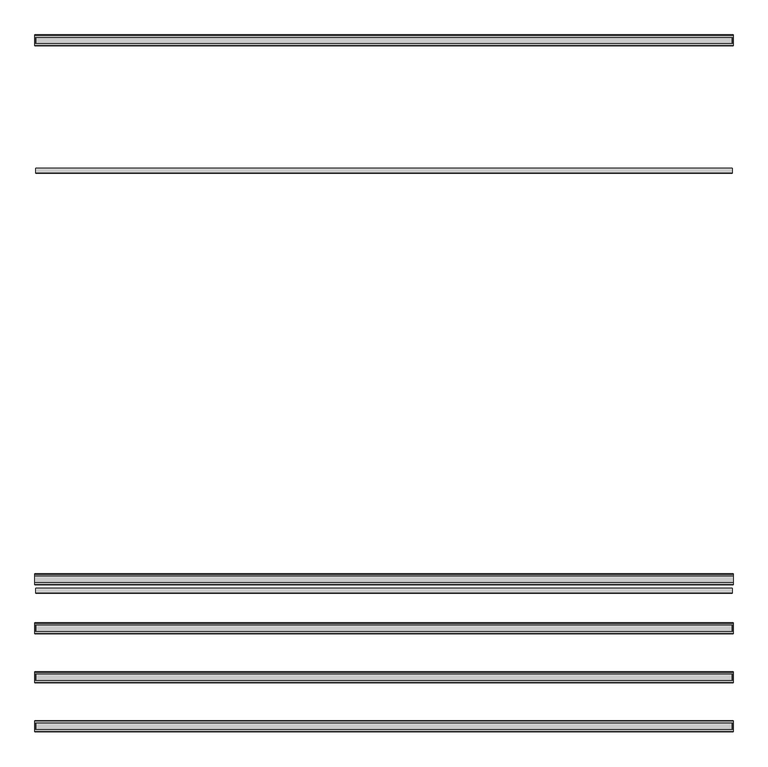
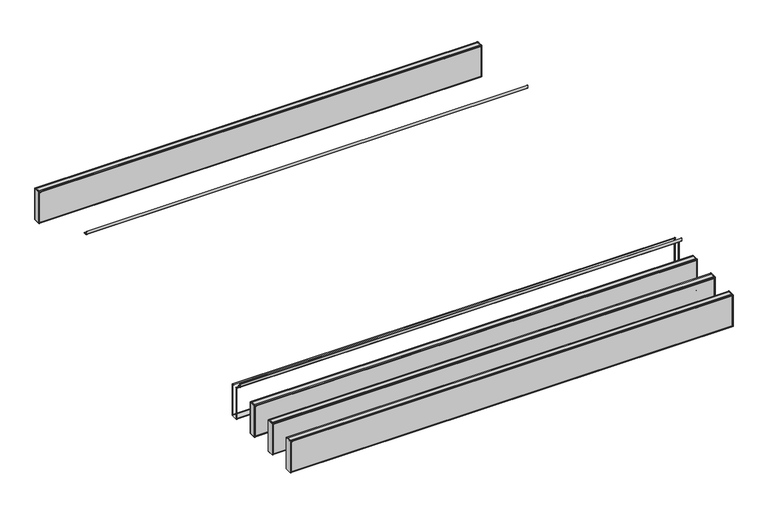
"""IFC4 building model written with IfcOpenShell, lengths in millimetres: proxy geometry, durlum_POLYLAM : durlum_POLYLAM 63 RV-L6."""

from ifc_helpers import new_model, si_unit, point, frame, frame_2d, origin, place, context, project, spatial, polyline, circle_curve, trimmed, segment, composite_curve, outline, extrude, source, transform, mapped, element, save
from ifc_brep_helpers import plane_surface, cylinder_surface, advanced_brep


def generic_models_56abbabc(model_context):
    return source(origin(), model_context, "Body", "SolidModel", [
        advanced_brep(
        [(1995.0, -1090.5, 2016.9), (1995.0, -1100.5, 2016.9), (1995.0, -1100.5, 2015.9), (1995.0, -1089.5, 2015.9), (1995.0, -1089.5, 1717.9), (1995.0, -1150.5, 1717.9), (1995.0, -1150.5, 2015.8155735), (1995.0, -1139.5, 2015.8155735), (1995.0, -1139.5, 2016.9), (1995.0, -1149.5, 2016.9), (1995.0, -1151.5, 2014.9), (1995.0, -1151.5, 1718.9), (1995.0, -1149.5, 1716.9), (1995.0, -1090.5, 1716.9), (1995.0, -1088.5, 1718.9), (1995.0, -1088.5, 2014.9), (-1995.0, -1090.5, 2016.9), (-1995.0, -1088.5, 2014.9), (-1995.0, -1088.5, 1718.9), (-1995.0, -1090.5, 1716.9), (-1995.0, -1149.5, 1716.9), (-1995.0, -1151.5, 1718.9), (-1995.0, -1151.5, 2014.9), (-1995.0, -1149.5, 2016.9), (-1995.0, -1139.5, 2016.9), (-1995.0, -1139.5, 2015.8155735), (-1995.0, -1150.5, 2015.8155735), (-1995.0, -1150.5, 1717.9), (-1995.0, -1089.5, 1717.9), (-1995.0, -1089.5, 2015.9), (-1995.0, -1100.5, 2015.9), (-1995.0, -1100.5, 2016.9), (-1986.5, -1089.5, 2008.4), (1986.5, -1089.5, 2008.4), (1986.5, -1089.5, 1725.4), (-1986.5, -1089.5, 1725.4), (1986.5, -1150.5, 2008.4), (-1986.5, -1150.5, 2008.4), (-1986.5, -1150.5, 1725.4), (1986.5, -1150.5, 1725.4), (-1986.5, -1151.5, 2008.4), (1986.5, -1151.5, 2008.4), (1986.5, -1151.5, 1725.4), (-1986.5, -1151.5, 1725.4), (1986.5, -1088.5, 2008.4), (-1986.5, -1088.5, 2008.4), (-1986.5, -1088.5, 1725.4), (1986.5, -1088.5, 1725.4)],
        [
            (0, 1),
            (1, 2),
            (2, 3),
            (3, 4),
            (4, 5),
            (5, 6),
            (6, 7),
            (7, 8),
            (8, 9),
            (9, 10, circle_curve(frame((1995.0, -1149.5, 2014.9), z_axis=(1.0, 0.0, 0.0), x_axis=(0.0, 1.0, 0.0)), 2.0)),
            (10, 11),
            (11, 12, circle_curve(frame((1995.0, -1149.5, 1718.9), z_axis=(1.0, 0.0, 0.0), x_axis=(0.0, 1.0, 0.0)), 2.0)),
            (12, 13),
            (13, 14, circle_curve(frame((1995.0, -1090.5, 1718.9), z_axis=(1.0, 0.0, 0.0), x_axis=(0.0, 1.0, 0.0)), 2.0)),
            (14, 15),
            (15, 0, circle_curve(frame((1995.0, -1090.5, 2014.9), z_axis=(1.0, 0.0, 0.0), x_axis=(0.0, 1.0, 0.0)), 2.0)),
            (16, 17, circle_curve(frame((-1995.0, -1090.5, 2014.9), z_axis=(-1.0, 0.0, 0.0), x_axis=(0.0, 1.0, 0.0)), 2.0)),
            (17, 18),
            (18, 19, circle_curve(frame((-1995.0, -1090.5, 1718.9), z_axis=(-1.0, 0.0, 0.0), x_axis=(0.0, 1.0, 0.0)), 2.0)),
            (19, 20),
            (20, 21, circle_curve(frame((-1995.0, -1149.5, 1718.9), z_axis=(-1.0, 0.0, 0.0), x_axis=(0.0, 1.0, 0.0)), 2.0)),
            (21, 22),
            (22, 23, circle_curve(frame((-1995.0, -1149.5, 2014.9), z_axis=(-1.0, 0.0, 0.0), x_axis=(0.0, 1.0, 0.0)), 2.0)),
            (23, 24),
            (24, 25),
            (25, 26),
            (26, 27),
            (27, 28),
            (28, 29),
            (29, 30),
            (30, 31),
            (31, 16),
            (0, 16),
            (31, 1),
            (30, 2),
            (29, 3),
            (28, 4),
            (32, 33),
            (33, 34),
            (34, 35),
            (35, 32),
            (27, 5),
            (26, 6),
            (36, 37),
            (37, 38),
            (38, 39),
            (39, 36),
            (25, 7),
            (24, 8),
            (23, 9),
            (10, 22),
            (21, 11),
            (40, 41),
            (41, 42),
            (42, 43),
            (43, 40),
            (12, 20),
            (19, 13),
            (14, 18),
            (17, 15),
            (44, 45),
            (45, 46),
            (46, 47),
            (47, 44),
            (44, 33),
            (32, 45),
            (36, 41),
            (40, 37),
            (35, 46),
            (43, 38),
            (34, 47),
            (42, 39),
        ],
        [
            plane_surface(frame((1995.0, -1100.5, 2016.9), z_axis=(1.0, 0.0, 0.0), x_axis=(0.0, -1.0, 0.0))),
            plane_surface(frame((-1995.0, -1100.5, 2016.9), z_axis=(-1.0, 0.0, 0.0), x_axis=(0.0, 1.0, 0.0))),
            plane_surface(frame((1995.0, -1090.5, 2016.9), z_axis=(0.0, 0.0, 1.0), x_axis=(-1.0, 0.0, 0.0))),
            plane_surface(frame((1995.0, -1100.5, 2016.9), z_axis=(0.0, -1.0, 0.0), x_axis=(-1.0, 0.0, 0.0))),
            plane_surface(frame((1995.0, -1100.5, 2015.9), z_axis=(0.0, 0.0, -1.0), x_axis=(-1.0, 0.0, 0.0))),
            plane_surface(frame((1995.0, -1089.5, 2015.9), z_axis=(0.0, -1.0, 0.0), x_axis=(-1.0, 0.0, 0.0))),
            plane_surface(frame((1995.0, -1089.5, 1717.9), z_axis=(0.0, 0.0, 1.0), x_axis=(-1.0, 0.0, 0.0))),
            plane_surface(frame((1995.0, -1150.5, 1717.9), z_axis=(0.0, 1.0, 0.0), x_axis=(-1.0, 0.0, 0.0))),
            plane_surface(frame((1995.0, -1150.5, 2015.8155735), z_axis=(0.0, 0.0, -1.0), x_axis=(-1.0, 0.0, 0.0))),
            plane_surface(frame((1995.0, -1139.5, 2015.8155735), z_axis=(0.0, 1.0, 0.0), x_axis=(-1.0, 0.0, 0.0))),
            plane_surface(frame((1995.0, -1139.5, 2016.9), z_axis=(0.0, 0.0, 1.0), x_axis=(-1.0, 0.0, 0.0))),
            plane_surface(frame((1995.0, -1151.5, 2014.9), z_axis=(0.0, -1.0, 0.0), x_axis=(-1.0, 0.0, 0.0))),
            plane_surface(frame((1995.0, -1149.5, 1716.9), z_axis=(0.0, 0.0, -1.0), x_axis=(-1.0, 0.0, 0.0))),
            plane_surface(frame((1995.0, -1088.5, 1718.9), z_axis=(0.0, 1.0, 0.0), x_axis=(-1.0, 0.0, 0.0))),
            cylinder_surface(frame((-1995.0, -1149.5, 2014.9), z_axis=(1.0, 0.0, 0.0), x_axis=(0.0, 1.0, 0.0)), 2.0),
            cylinder_surface(frame((-1995.0, -1149.5, 1718.9), z_axis=(1.0, 0.0, 0.0), x_axis=(0.0, 1.0, 0.0)), 2.0),
            cylinder_surface(frame((-1995.0, -1090.5, 1718.9), z_axis=(1.0, 0.0, 0.0), x_axis=(0.0, 1.0, 0.0)), 2.0),
            cylinder_surface(frame((-1995.0, -1090.5, 2014.9), z_axis=(1.0, 0.0, 0.0), x_axis=(0.0, 1.0, 0.0)), 2.0),
            plane_surface(frame((1986.5, -1151.5, 2008.4), z_axis=(0.0, 0.0, -1.0), x_axis=(0.0, 1.0, 0.0))),
            plane_surface(frame((-1986.5, -1151.5, 2008.4), z_axis=(1.0, 0.0, 0.0), x_axis=(0.0, 1.0, 0.0))),
            plane_surface(frame((-1986.5, -1151.5, 1725.4), z_axis=(0.0, 0.0, 1.0), x_axis=(0.0, 1.0, 0.0))),
            plane_surface(frame((1986.5, -1151.5, 1725.4), z_axis=(-1.0, 0.0, 0.0), x_axis=(0.0, 1.0, 0.0))),
        ],
        [
            (0, [[1, 2, 3, 4, 5, 6, 7, 8, 9, 10, 11, 12, 13, 14, 15, 16]]),
            (1, [[17, 18, 19, 20, 21, 22, 23, 24, 25, 26, 27, 28, 29, 30, 31, 32]]),
            (2, [[-1, 33, -32, 34]]),
            (3, [[-2, -34, -31, 35]]),
            (4, [[-3, -35, -30, 36]]),
            (5, [[-4, -36, -29, 37], [38, 39, 40, 41]]),
            (6, [[-5, -37, -28, 42]]),
            (7, [[-6, -42, -27, 43], [44, 45, 46, 47]]),
            (8, [[-7, -43, -26, 48]]),
            (9, [[-8, -48, -25, 49]]),
            (10, [[-9, -49, -24, 50]]),
            (11, [[-11, 51, -22, 52], [53, 54, 55, 56]]),
            (12, [[-13, 57, -20, 58]]),
            (13, [[-15, 59, -18, 60], [61, 62, 63, 64]]),
            (14, [[-10, -50, -23, -51]]),
            (15, [[-12, -52, -21, -57]]),
            (16, [[-14, -58, -19, -59]]),
            (17, [[-16, -60, -17, -33]]),
            (18, [[65, -38, 66, -61]]),
            (18, [[67, -53, 68, -44]]),
            (19, [[-66, -41, 69, -62]]),
            (19, [[-68, -56, 70, -45]]),
            (20, [[-69, -40, 71, -63]]),
            (20, [[-70, -55, 72, -46]]),
            (21, [[-65, -64, -71, -39]]),
            (21, [[-67, -47, -72, -54]]),
        ],
    ),
        extrude(outline(polyline([(1993.0, -1369.5), (1995.0, -1369.5), (1995.0, -1430.5), (1993.0, -1430.5), (1993.0, -1369.5)])), frame((0.0, 0.0, 1717.9), z_axis=(0.0, 0.0, 1.0), x_axis=(1.0, 0.0, 0.0)), (0.0, 0.0, 1.0), 298.0),
        extrude(outline(polyline([(-1995.0, -1369.5), (-1993.0, -1369.5), (-1993.0, -1430.5), (-1995.0, -1430.5), (-1995.0, -1369.5)])), frame((0.0, 0.0, 1717.9), z_axis=(0.0, 0.0, 1.0), x_axis=(1.0, 0.0, 0.0)), (0.0, 0.0, 1.0), 298.0),
        extrude(outline(polyline([(1986.5, -1369.5), (1986.5, -1430.5), (-1986.5, -1430.5), (-1986.5, -1369.5), (1986.5, -1369.5)])), frame((0.0, 0.0, 1717.9), z_axis=(0.0, 0.0, 1.0), x_axis=(1.0, 0.0, 0.0)), (0.0, 0.0, 1.0), 298.0),
        extrude(outline(polyline([(1986.5, -1369.5), (-1986.5, -1369.5), (-1986.5, -1368.5), (1986.5, -1368.5), (1986.5, -1369.5)])), frame((0.0, 0.0, 1725.4), z_axis=(0.0, 0.0, 1.0), x_axis=(1.0, 0.0, 0.0)), (0.0, 0.0, 1.0), 283.0),
        extrude(outline(polyline([(1986.5, -1431.5), (-1986.5, -1431.5), (-1986.5, -1430.5), (1986.5, -1430.5), (1986.5, -1431.5)])), frame((0.0, 0.0, 1725.4), z_axis=(0.0, 0.0, 1.0), x_axis=(1.0, 0.0, 0.0)), (0.0, 0.0, 1.0), 283.0),
        advanced_brep(
        [(1995.0, -1370.5, 2016.9), (1995.0, -1380.5, 2016.9), (1995.0, -1380.5, 2015.9), (1995.0, -1369.5, 2015.9), (1995.0, -1369.5, 1717.9), (1995.0, -1430.5, 1717.9), (1995.0, -1430.5, 2015.8155735), (1995.0, -1419.5, 2015.8155735), (1995.0, -1419.5, 2016.9), (1995.0, -1429.5, 2016.9), (1995.0, -1431.5, 2014.9), (1995.0, -1431.5, 1718.9), (1995.0, -1429.5, 1716.9), (1995.0, -1370.5, 1716.9), (1995.0, -1368.5, 1718.9), (1995.0, -1368.5, 2014.9), (-1995.0, -1370.5, 2016.9), (-1995.0, -1368.5, 2014.9), (-1995.0, -1368.5, 1718.9), (-1995.0, -1370.5, 1716.9), (-1995.0, -1429.5, 1716.9), (-1995.0, -1431.5, 1718.9), (-1995.0, -1431.5, 2014.9), (-1995.0, -1429.5, 2016.9), (-1995.0, -1419.5, 2016.9), (-1995.0, -1419.5, 2015.8155735), (-1995.0, -1430.5, 2015.8155735), (-1995.0, -1430.5, 1717.9), (-1995.0, -1369.5, 1717.9), (-1995.0, -1369.5, 2015.9), (-1995.0, -1380.5, 2015.9), (-1995.0, -1380.5, 2016.9), (-1986.5, -1369.5, 2008.4), (1986.5, -1369.5, 2008.4), (1986.5, -1369.5, 1725.4), (-1986.5, -1369.5, 1725.4), (1986.5, -1430.5, 2008.4), (-1986.5, -1430.5, 2008.4), (-1986.5, -1430.5, 1725.4), (1986.5, -1430.5, 1725.4), (-1986.5, -1431.5, 2008.4), (1986.5, -1431.5, 2008.4), (1986.5, -1431.5, 1725.4), (-1986.5, -1431.5, 1725.4), (1986.5, -1368.5, 2008.4), (-1986.5, -1368.5, 2008.4), (-1986.5, -1368.5, 1725.4), (1986.5, -1368.5, 1725.4)],
        [
            (0, 1),
            (1, 2),
            (2, 3),
            (3, 4),
            (4, 5),
            (5, 6),
            (6, 7),
            (7, 8),
            (8, 9),
            (9, 10, circle_curve(frame((1995.0, -1429.5, 2014.9), z_axis=(1.0, 0.0, 0.0), x_axis=(0.0, 1.0, 0.0)), 2.0)),
            (10, 11),
            (11, 12, circle_curve(frame((1995.0, -1429.5, 1718.9), z_axis=(1.0, 0.0, 0.0), x_axis=(0.0, 1.0, 0.0)), 2.0)),
            (12, 13),
            (13, 14, circle_curve(frame((1995.0, -1370.5, 1718.9), z_axis=(1.0, 0.0, 0.0), x_axis=(0.0, 1.0, 0.0)), 2.0)),
            (14, 15),
            (15, 0, circle_curve(frame((1995.0, -1370.5, 2014.9), z_axis=(1.0, 0.0, 0.0), x_axis=(0.0, 1.0, 0.0)), 2.0)),
            (16, 17, circle_curve(frame((-1995.0, -1370.5, 2014.9), z_axis=(-1.0, 0.0, 0.0), x_axis=(0.0, 1.0, 0.0)), 2.0)),
            (17, 18),
            (18, 19, circle_curve(frame((-1995.0, -1370.5, 1718.9), z_axis=(-1.0, 0.0, 0.0), x_axis=(0.0, 1.0, 0.0)), 2.0)),
            (19, 20),
            (20, 21, circle_curve(frame((-1995.0, -1429.5, 1718.9), z_axis=(-1.0, 0.0, 0.0), x_axis=(0.0, 1.0, 0.0)), 2.0)),
            (21, 22),
            (22, 23, circle_curve(frame((-1995.0, -1429.5, 2014.9), z_axis=(-1.0, 0.0, 0.0), x_axis=(0.0, 1.0, 0.0)), 2.0)),
            (23, 24),
            (24, 25),
            (25, 26),
            (26, 27),
            (27, 28),
            (28, 29),
            (29, 30),
            (30, 31),
            (31, 16),
            (0, 16),
            (31, 1),
            (30, 2),
            (29, 3),
            (28, 4),
            (32, 33),
            (33, 34),
            (34, 35),
            (35, 32),
            (27, 5),
            (26, 6),
            (36, 37),
            (37, 38),
            (38, 39),
            (39, 36),
            (25, 7),
            (24, 8),
            (23, 9),
            (10, 22),
            (21, 11),
            (40, 41),
            (41, 42),
            (42, 43),
            (43, 40),
            (12, 20),
            (19, 13),
            (14, 18),
            (17, 15),
            (44, 45),
            (45, 46),
            (46, 47),
            (47, 44),
            (44, 33),
            (32, 45),
            (36, 41),
            (40, 37),
            (35, 46),
            (43, 38),
            (34, 47),
            (42, 39),
        ],
        [
            plane_surface(frame((1995.0, -1380.5, 2016.9), z_axis=(1.0, 0.0, 0.0), x_axis=(0.0, -1.0, 0.0))),
            plane_surface(frame((-1995.0, -1380.5, 2016.9), z_axis=(-1.0, 0.0, 0.0), x_axis=(0.0, 1.0, 0.0))),
            plane_surface(frame((1995.0, -1370.5, 2016.9), z_axis=(0.0, 0.0, 1.0), x_axis=(-1.0, 0.0, 0.0))),
            plane_surface(frame((1995.0, -1380.5, 2016.9), z_axis=(0.0, -1.0, 0.0), x_axis=(-1.0, 0.0, 0.0))),
            plane_surface(frame((1995.0, -1380.5, 2015.9), z_axis=(0.0, 0.0, -1.0), x_axis=(-1.0, 0.0, 0.0))),
            plane_surface(frame((1995.0, -1369.5, 2015.9), z_axis=(0.0, -1.0, 0.0), x_axis=(-1.0, 0.0, 0.0))),
            plane_surface(frame((1995.0, -1369.5, 1717.9), z_axis=(0.0, 0.0, 1.0), x_axis=(-1.0, 0.0, 0.0))),
            plane_surface(frame((1995.0, -1430.5, 1717.9), z_axis=(0.0, 1.0, 0.0), x_axis=(-1.0, 0.0, 0.0))),
            plane_surface(frame((1995.0, -1430.5, 2015.8155735), z_axis=(0.0, 0.0, -1.0), x_axis=(-1.0, 0.0, 0.0))),
            plane_surface(frame((1995.0, -1419.5, 2015.8155735), z_axis=(0.0, 1.0, 0.0), x_axis=(-1.0, 0.0, 0.0))),
            plane_surface(frame((1995.0, -1419.5, 2016.9), z_axis=(0.0, 0.0, 1.0), x_axis=(-1.0, 0.0, 0.0))),
            plane_surface(frame((1995.0, -1431.5, 2014.9), z_axis=(0.0, -1.0, 0.0), x_axis=(-1.0, 0.0, 0.0))),
            plane_surface(frame((1995.0, -1429.5, 1716.9), z_axis=(0.0, 0.0, -1.0), x_axis=(-1.0, 0.0, 0.0))),
            plane_surface(frame((1995.0, -1368.5, 1718.9), z_axis=(0.0, 1.0, 0.0), x_axis=(-1.0, 0.0, 0.0))),
            cylinder_surface(frame((-1995.0, -1429.5, 2014.9), z_axis=(1.0, 0.0, 0.0), x_axis=(0.0, 1.0, 0.0)), 2.0),
            cylinder_surface(frame((-1995.0, -1429.5, 1718.9), z_axis=(1.0, 0.0, 0.0), x_axis=(0.0, 1.0, 0.0)), 2.0),
            cylinder_surface(frame((-1995.0, -1370.5, 1718.9), z_axis=(1.0, 0.0, 0.0), x_axis=(0.0, 1.0, 0.0)), 2.0),
            cylinder_surface(frame((-1995.0, -1370.5, 2014.9), z_axis=(1.0, 0.0, 0.0), x_axis=(0.0, 1.0, 0.0)), 2.0),
            plane_surface(frame((1986.5, -1431.5, 2008.4), z_axis=(0.0, 0.0, -1.0), x_axis=(0.0, 1.0, 0.0))),
            plane_surface(frame((-1986.5, -1431.5, 2008.4), z_axis=(1.0, 0.0, 0.0), x_axis=(0.0, 1.0, 0.0))),
            plane_surface(frame((-1986.5, -1431.5, 1725.4), z_axis=(0.0, 0.0, 1.0), x_axis=(0.0, 1.0, 0.0))),
            plane_surface(frame((1986.5, -1431.5, 1725.4), z_axis=(-1.0, 0.0, 0.0), x_axis=(0.0, 1.0, 0.0))),
        ],
        [
            (0, [[1, 2, 3, 4, 5, 6, 7, 8, 9, 10, 11, 12, 13, 14, 15, 16]]),
            (1, [[17, 18, 19, 20, 21, 22, 23, 24, 25, 26, 27, 28, 29, 30, 31, 32]]),
            (2, [[-1, 33, -32, 34]]),
            (3, [[-2, -34, -31, 35]]),
            (4, [[-3, -35, -30, 36]]),
            (5, [[-4, -36, -29, 37], [38, 39, 40, 41]]),
            (6, [[-5, -37, -28, 42]]),
            (7, [[-6, -42, -27, 43], [44, 45, 46, 47]]),
            (8, [[-7, -43, -26, 48]]),
            (9, [[-8, -48, -25, 49]]),
            (10, [[-9, -49, -24, 50]]),
            (11, [[-11, 51, -22, 52], [53, 54, 55, 56]]),
            (12, [[-13, 57, -20, 58]]),
            (13, [[-15, 59, -18, 60], [61, 62, 63, 64]]),
            (14, [[-10, -50, -23, -51]]),
            (15, [[-12, -52, -21, -57]]),
            (16, [[-14, -58, -19, -59]]),
            (17, [[-16, -60, -17, -33]]),
            (18, [[65, -38, 66, -61]]),
            (18, [[67, -53, 68, -44]]),
            (19, [[-66, -41, 69, -62]]),
            (19, [[-68, -56, 70, -45]]),
            (20, [[-69, -40, 71, -63]]),
            (20, [[-70, -55, 72, -46]]),
            (21, [[-65, -64, -71, -39]]),
            (21, [[-67, -47, -72, -54]]),
        ],
    ),
        extrude(outline(polyline([(1993.0, -1649.5), (1995.0, -1649.5), (1995.0, -1710.5), (1993.0, -1710.5), (1993.0, -1649.5)])), frame((0.0, 0.0, 1717.9), z_axis=(0.0, 0.0, 1.0), x_axis=(1.0, 0.0, 0.0)), (0.0, 0.0, 1.0), 298.0),
        extrude(outline(polyline([(-1995.0, -1649.5), (-1993.0, -1649.5), (-1993.0, -1710.5), (-1995.0, -1710.5), (-1995.0, -1649.5)])), frame((0.0, 0.0, 1717.9), z_axis=(0.0, 0.0, 1.0), x_axis=(1.0, 0.0, 0.0)), (0.0, 0.0, 1.0), 298.0),
        extrude(outline(polyline([(1986.5, -1649.5), (1986.5, -1710.5), (-1986.5, -1710.5), (-1986.5, -1649.5), (1986.5, -1649.5)])), frame((0.0, 0.0, 1717.9), z_axis=(0.0, 0.0, 1.0), x_axis=(1.0, 0.0, 0.0)), (0.0, 0.0, 1.0), 298.0),
        extrude(outline(polyline([(1986.5, -1649.5), (-1986.5, -1649.5), (-1986.5, -1648.5), (1986.5, -1648.5), (1986.5, -1649.5)])), frame((0.0, 0.0, 1725.4), z_axis=(0.0, 0.0, 1.0), x_axis=(1.0, 0.0, 0.0)), (0.0, 0.0, 1.0), 283.0),
        extrude(outline(polyline([(1986.5, -1711.5), (-1986.5, -1711.5), (-1986.5, -1710.5), (1986.5, -1710.5), (1986.5, -1711.5)])), frame((0.0, 0.0, 1725.4), z_axis=(0.0, 0.0, 1.0), x_axis=(1.0, 0.0, 0.0)), (0.0, 0.0, 1.0), 283.0),
        advanced_brep(
        [(1995.0, -1650.5, 2016.9), (1995.0, -1660.5, 2016.9), (1995.0, -1660.5, 2015.9), (1995.0, -1649.5, 2015.9), (1995.0, -1649.5, 1717.9), (1995.0, -1710.5, 1717.9), (1995.0, -1710.5, 2015.8155735), (1995.0, -1699.5, 2015.8155735), (1995.0, -1699.5, 2016.9), (1995.0, -1709.5, 2016.9), (1995.0, -1711.5, 2014.9), (1995.0, -1711.5, 1718.9), (1995.0, -1709.5, 1716.9), (1995.0, -1650.5, 1716.9), (1995.0, -1648.5, 1718.9), (1995.0, -1648.5, 2014.9), (-1995.0, -1650.5, 2016.9), (-1995.0, -1648.5, 2014.9), (-1995.0, -1648.5, 1718.9), (-1995.0, -1650.5, 1716.9), (-1995.0, -1709.5, 1716.9), (-1995.0, -1711.5, 1718.9), (-1995.0, -1711.5, 2014.9), (-1995.0, -1709.5, 2016.9), (-1995.0, -1699.5, 2016.9), (-1995.0, -1699.5, 2015.8155735), (-1995.0, -1710.5, 2015.8155735), (-1995.0, -1710.5, 1717.9), (-1995.0, -1649.5, 1717.9), (-1995.0, -1649.5, 2015.9), (-1995.0, -1660.5, 2015.9), (-1995.0, -1660.5, 2016.9), (-1986.5, -1649.5, 2008.4), (1986.5, -1649.5, 2008.4), (1986.5, -1649.5, 1725.4), (-1986.5, -1649.5, 1725.4), (1986.5, -1710.5, 2008.4), (-1986.5, -1710.5, 2008.4), (-1986.5, -1710.5, 1725.4), (1986.5, -1710.5, 1725.4), (-1986.5, -1711.5, 2008.4), (1986.5, -1711.5, 2008.4), (1986.5, -1711.5, 1725.4), (-1986.5, -1711.5, 1725.4), (1986.5, -1648.5, 2008.4), (-1986.5, -1648.5, 2008.4), (-1986.5, -1648.5, 1725.4), (1986.5, -1648.5, 1725.4)],
        [
            (0, 1),
            (1, 2),
            (2, 3),
            (3, 4),
            (4, 5),
            (5, 6),
            (6, 7),
            (7, 8),
            (8, 9),
            (9, 10, circle_curve(frame((1995.0, -1709.5, 2014.9), z_axis=(1.0, 0.0, 0.0), x_axis=(0.0, 1.0, 0.0)), 2.0)),
            (10, 11),
            (11, 12, circle_curve(frame((1995.0, -1709.5, 1718.9), z_axis=(1.0, 0.0, 0.0), x_axis=(0.0, 1.0, 0.0)), 2.0)),
            (12, 13),
            (13, 14, circle_curve(frame((1995.0, -1650.5, 1718.9), z_axis=(1.0, 0.0, 0.0), x_axis=(0.0, 1.0, 0.0)), 2.0)),
            (14, 15),
            (15, 0, circle_curve(frame((1995.0, -1650.5, 2014.9), z_axis=(1.0, 0.0, 0.0), x_axis=(0.0, 1.0, 0.0)), 2.0)),
            (16, 17, circle_curve(frame((-1995.0, -1650.5, 2014.9), z_axis=(-1.0, 0.0, 0.0), x_axis=(0.0, 1.0, 0.0)), 2.0)),
            (17, 18),
            (18, 19, circle_curve(frame((-1995.0, -1650.5, 1718.9), z_axis=(-1.0, 0.0, 0.0), x_axis=(0.0, 1.0, 0.0)), 2.0)),
            (19, 20),
            (20, 21, circle_curve(frame((-1995.0, -1709.5, 1718.9), z_axis=(-1.0, 0.0, 0.0), x_axis=(0.0, 1.0, 0.0)), 2.0)),
            (21, 22),
            (22, 23, circle_curve(frame((-1995.0, -1709.5, 2014.9), z_axis=(-1.0, 0.0, 0.0), x_axis=(0.0, 1.0, 0.0)), 2.0)),
            (23, 24),
            (24, 25),
            (25, 26),
            (26, 27),
            (27, 28),
            (28, 29),
            (29, 30),
            (30, 31),
            (31, 16),
            (0, 16),
            (31, 1),
            (30, 2),
            (29, 3),
            (28, 4),
            (32, 33),
            (33, 34),
            (34, 35),
            (35, 32),
            (27, 5),
            (26, 6),
            (36, 37),
            (37, 38),
            (38, 39),
            (39, 36),
            (25, 7),
            (24, 8),
            (23, 9),
            (10, 22),
            (21, 11),
            (40, 41),
            (41, 42),
            (42, 43),
            (43, 40),
            (12, 20),
            (19, 13),
            (14, 18),
            (17, 15),
            (44, 45),
            (45, 46),
            (46, 47),
            (47, 44),
            (44, 33),
            (32, 45),
            (36, 41),
            (40, 37),
            (35, 46),
            (43, 38),
            (34, 47),
            (42, 39),
        ],
        [
            plane_surface(frame((1995.0, -1660.5, 2016.9), z_axis=(1.0, 0.0, 0.0), x_axis=(0.0, -1.0, 0.0))),
            plane_surface(frame((-1995.0, -1660.5, 2016.9), z_axis=(-1.0, 0.0, 0.0), x_axis=(0.0, 1.0, 0.0))),
            plane_surface(frame((1995.0, -1650.5, 2016.9), z_axis=(0.0, 0.0, 1.0), x_axis=(-1.0, 0.0, 0.0))),
            plane_surface(frame((1995.0, -1660.5, 2016.9), z_axis=(0.0, -1.0, 0.0), x_axis=(-1.0, 0.0, 0.0))),
            plane_surface(frame((1995.0, -1660.5, 2015.9), z_axis=(0.0, 0.0, -1.0), x_axis=(-1.0, 0.0, 0.0))),
            plane_surface(frame((1995.0, -1649.5, 2015.9), z_axis=(0.0, -1.0, 0.0), x_axis=(-1.0, 0.0, 0.0))),
            plane_surface(frame((1995.0, -1649.5, 1717.9), z_axis=(0.0, 0.0, 1.0), x_axis=(-1.0, 0.0, 0.0))),
            plane_surface(frame((1995.0, -1710.5, 1717.9), z_axis=(0.0, 1.0, 0.0), x_axis=(-1.0, 0.0, 0.0))),
            plane_surface(frame((1995.0, -1710.5, 2015.8155735), z_axis=(0.0, 0.0, -1.0), x_axis=(-1.0, 0.0, 0.0))),
            plane_surface(frame((1995.0, -1699.5, 2015.8155735), z_axis=(0.0, 1.0, 0.0), x_axis=(-1.0, 0.0, 0.0))),
            plane_surface(frame((1995.0, -1699.5, 2016.9), z_axis=(0.0, 0.0, 1.0), x_axis=(-1.0, 0.0, 0.0))),
            plane_surface(frame((1995.0, -1711.5, 2014.9), z_axis=(0.0, -1.0, 0.0), x_axis=(-1.0, 0.0, 0.0))),
            plane_surface(frame((1995.0, -1709.5, 1716.9), z_axis=(0.0, 0.0, -1.0), x_axis=(-1.0, 0.0, 0.0))),
            plane_surface(frame((1995.0, -1648.5, 1718.9), z_axis=(0.0, 1.0, 0.0), x_axis=(-1.0, 0.0, 0.0))),
            cylinder_surface(frame((-1995.0, -1709.5, 2014.9), z_axis=(1.0, 0.0, 0.0), x_axis=(0.0, 1.0, 0.0)), 2.0),
            cylinder_surface(frame((-1995.0, -1709.5, 1718.9), z_axis=(1.0, 0.0, 0.0), x_axis=(0.0, 1.0, 0.0)), 2.0),
            cylinder_surface(frame((-1995.0, -1650.5, 1718.9), z_axis=(1.0, 0.0, 0.0), x_axis=(0.0, 1.0, 0.0)), 2.0),
            cylinder_surface(frame((-1995.0, -1650.5, 2014.9), z_axis=(1.0, 0.0, 0.0), x_axis=(0.0, 1.0, 0.0)), 2.0),
            plane_surface(frame((1986.5, -1711.5, 2008.4), z_axis=(0.0, 0.0, -1.0), x_axis=(0.0, 1.0, 0.0))),
            plane_surface(frame((-1986.5, -1711.5, 2008.4), z_axis=(1.0, 0.0, 0.0), x_axis=(0.0, 1.0, 0.0))),
            plane_surface(frame((-1986.5, -1711.5, 1725.4), z_axis=(0.0, 0.0, 1.0), x_axis=(0.0, 1.0, 0.0))),
            plane_surface(frame((1986.5, -1711.5, 1725.4), z_axis=(-1.0, 0.0, 0.0), x_axis=(0.0, 1.0, 0.0))),
        ],
        [
            (0, [[1, 2, 3, 4, 5, 6, 7, 8, 9, 10, 11, 12, 13, 14, 15, 16]]),
            (1, [[17, 18, 19, 20, 21, 22, 23, 24, 25, 26, 27, 28, 29, 30, 31, 32]]),
            (2, [[-1, 33, -32, 34]]),
            (3, [[-2, -34, -31, 35]]),
            (4, [[-3, -35, -30, 36]]),
            (5, [[-4, -36, -29, 37], [38, 39, 40, 41]]),
            (6, [[-5, -37, -28, 42]]),
            (7, [[-6, -42, -27, 43], [44, 45, 46, 47]]),
            (8, [[-7, -43, -26, 48]]),
            (9, [[-8, -48, -25, 49]]),
            (10, [[-9, -49, -24, 50]]),
            (11, [[-11, 51, -22, 52], [53, 54, 55, 56]]),
            (12, [[-13, 57, -20, 58]]),
            (13, [[-15, 59, -18, 60], [61, 62, 63, 64]]),
            (14, [[-10, -50, -23, -51]]),
            (15, [[-12, -52, -21, -57]]),
            (16, [[-14, -58, -19, -59]]),
            (17, [[-16, -60, -17, -33]]),
            (18, [[65, -38, 66, -61]]),
            (18, [[67, -53, 68, -44]]),
            (19, [[-66, -41, 69, -62]]),
            (19, [[-68, -56, 70, -45]]),
            (20, [[-69, -40, 71, -63]]),
            (20, [[-70, -55, 72, -46]]),
            (21, [[-65, -64, -71, -39]]),
            (21, [[-67, -47, -72, -54]]),
        ],
    ),
        extrude(outline(polyline([(1993.0, 1990.5), (1995.0, 1990.5), (1995.0, 1929.5), (1993.0, 1929.5), (1993.0, 1990.5)])), frame((0.0, 0.0, 1717.9), z_axis=(0.0, 0.0, 1.0), x_axis=(1.0, 0.0, 0.0)), (0.0, 0.0, 1.0), 298.0),
        extrude(outline(polyline([(-1995.0, 1990.5), (-1993.0, 1990.5), (-1993.0, 1929.5), (-1995.0, 1929.5), (-1995.0, 1990.5)])), frame((0.0, 0.0, 1717.9), z_axis=(0.0, 0.0, 1.0), x_axis=(1.0, 0.0, 0.0)), (0.0, 0.0, 1.0), 298.0),
        extrude(outline(polyline([(1986.5, 1990.5), (1986.5, 1929.5), (-1986.5, 1929.5), (-1986.5, 1990.5), (1986.5, 1990.5)])), frame((0.0, 0.0, 1717.9), z_axis=(0.0, 0.0, 1.0), x_axis=(1.0, 0.0, 0.0)), (0.0, 0.0, 1.0), 298.0),
        extrude(outline(polyline([(1986.5, 1990.5), (-1986.5, 1990.5), (-1986.5, 1991.5), (1986.5, 1991.5), (1986.5, 1990.5)])), frame((0.0, 0.0, 1725.4), z_axis=(0.0, 0.0, 1.0), x_axis=(1.0, 0.0, 0.0)), (0.0, 0.0, 1.0), 283.0),
        extrude(outline(polyline([(1986.5, 1928.5), (-1986.5, 1928.5), (-1986.5, 1929.5), (1986.5, 1929.5), (1986.5, 1928.5)])), frame((0.0, 0.0, 1725.4), z_axis=(0.0, 0.0, 1.0), x_axis=(1.0, 0.0, 0.0)), (0.0, 0.0, 1.0), 283.0),
        advanced_brep(
        [(1995.0, 1989.5, 2016.9), (1995.0, 1979.5, 2016.9), (1995.0, 1979.5, 2015.9), (1995.0, 1990.5, 2015.9), (1995.0, 1990.5, 1717.9), (1995.0, 1929.5, 1717.9), (1995.0, 1929.5, 2015.8155735), (1995.0, 1940.5, 2015.8155735), (1995.0, 1940.5, 2016.9), (1995.0, 1930.5, 2016.9), (1995.0, 1928.5, 2014.9), (1995.0, 1928.5, 1718.9), (1995.0, 1930.5, 1716.9), (1995.0, 1989.5, 1716.9), (1995.0, 1991.5, 1718.9), (1995.0, 1991.5, 2014.9), (-1995.0, 1989.5, 2016.9), (-1995.0, 1991.5, 2014.9), (-1995.0, 1991.5, 1718.9), (-1995.0, 1989.5, 1716.9), (-1995.0, 1930.5, 1716.9), (-1995.0, 1928.5, 1718.9), (-1995.0, 1928.5, 2014.9), (-1995.0, 1930.5, 2016.9), (-1995.0, 1940.5, 2016.9), (-1995.0, 1940.5, 2015.8155735), (-1995.0, 1929.5, 2015.8155735), (-1995.0, 1929.5, 1717.9), (-1995.0, 1990.5, 1717.9), (-1995.0, 1990.5, 2015.9), (-1995.0, 1979.5, 2015.9), (-1995.0, 1979.5, 2016.9), (-1986.5, 1990.5, 2008.4), (1986.5, 1990.5, 2008.4), (1986.5, 1990.5, 1725.4), (-1986.5, 1990.5, 1725.4), (1986.5, 1929.5, 2008.4), (-1986.5, 1929.5, 2008.4), (-1986.5, 1929.5, 1725.4), (1986.5, 1929.5, 1725.4), (-1986.5, 1928.5, 2008.4), (1986.5, 1928.5, 2008.4), (1986.5, 1928.5, 1725.4), (-1986.5, 1928.5, 1725.4), (1986.5, 1991.5, 2008.4), (-1986.5, 1991.5, 2008.4), (-1986.5, 1991.5, 1725.4), (1986.5, 1991.5, 1725.4)],
        [
            (0, 1),
            (1, 2),
            (2, 3),
            (3, 4),
            (4, 5),
            (5, 6),
            (6, 7),
            (7, 8),
            (8, 9),
            (9, 10, circle_curve(frame((1995.0, 1930.5, 2014.9), z_axis=(1.0, 0.0, 0.0), x_axis=(0.0, 1.0, 0.0)), 2.0)),
            (10, 11),
            (11, 12, circle_curve(frame((1995.0, 1930.5, 1718.9), z_axis=(1.0, 0.0, 0.0), x_axis=(0.0, 1.0, 0.0)), 2.0)),
            (12, 13),
            (13, 14, circle_curve(frame((1995.0, 1989.5, 1718.9), z_axis=(1.0, 0.0, 0.0), x_axis=(0.0, 1.0, 0.0)), 2.0)),
            (14, 15),
            (15, 0, circle_curve(frame((1995.0, 1989.5, 2014.9), z_axis=(1.0, 0.0, 0.0), x_axis=(0.0, 1.0, 0.0)), 2.0)),
            (16, 17, circle_curve(frame((-1995.0, 1989.5, 2014.9), z_axis=(-1.0, 0.0, 0.0), x_axis=(0.0, 1.0, 0.0)), 2.0)),
            (17, 18),
            (18, 19, circle_curve(frame((-1995.0, 1989.5, 1718.9), z_axis=(-1.0, 0.0, 0.0), x_axis=(0.0, 1.0, 0.0)), 2.0)),
            (19, 20),
            (20, 21, circle_curve(frame((-1995.0, 1930.5, 1718.9), z_axis=(-1.0, 0.0, 0.0), x_axis=(0.0, 1.0, 0.0)), 2.0)),
            (21, 22),
            (22, 23, circle_curve(frame((-1995.0, 1930.5, 2014.9), z_axis=(-1.0, 0.0, 0.0), x_axis=(0.0, 1.0, 0.0)), 2.0)),
            (23, 24),
            (24, 25),
            (25, 26),
            (26, 27),
            (27, 28),
            (28, 29),
            (29, 30),
            (30, 31),
            (31, 16),
            (0, 16),
            (31, 1),
            (30, 2),
            (29, 3),
            (28, 4),
            (32, 33),
            (33, 34),
            (34, 35),
            (35, 32),
            (27, 5),
            (26, 6),
            (36, 37),
            (37, 38),
            (38, 39),
            (39, 36),
            (25, 7),
            (24, 8),
            (23, 9),
            (10, 22),
            (21, 11),
            (40, 41),
            (41, 42),
            (42, 43),
            (43, 40),
            (12, 20),
            (19, 13),
            (14, 18),
            (17, 15),
            (44, 45),
            (45, 46),
            (46, 47),
            (47, 44),
            (44, 33),
            (32, 45),
            (36, 41),
            (40, 37),
            (35, 46),
            (43, 38),
            (34, 47),
            (42, 39),
        ],
        [
            plane_surface(frame((1995.0, 1979.5, 2016.9), z_axis=(1.0, 0.0, 0.0), x_axis=(0.0, -1.0, 0.0))),
            plane_surface(frame((-1995.0, 1979.5, 2016.9), z_axis=(-1.0, 0.0, 0.0), x_axis=(0.0, 1.0, 0.0))),
            plane_surface(frame((1995.0, 1989.5, 2016.9), z_axis=(0.0, 0.0, 1.0), x_axis=(-1.0, 0.0, 0.0))),
            plane_surface(frame((1995.0, 1979.5, 2016.9), z_axis=(0.0, -1.0, 0.0), x_axis=(-1.0, 0.0, 0.0))),
            plane_surface(frame((1995.0, 1979.5, 2015.9), z_axis=(0.0, 0.0, -1.0), x_axis=(-1.0, 0.0, 0.0))),
            plane_surface(frame((1995.0, 1990.5, 2015.9), z_axis=(0.0, -1.0, 0.0), x_axis=(-1.0, 0.0, 0.0))),
            plane_surface(frame((1995.0, 1990.5, 1717.9), z_axis=(0.0, 0.0, 1.0), x_axis=(-1.0, 0.0, 0.0))),
            plane_surface(frame((1995.0, 1929.5, 1717.9), z_axis=(0.0, 1.0, 0.0), x_axis=(-1.0, 0.0, 0.0))),
            plane_surface(frame((1995.0, 1929.5, 2015.8155735), z_axis=(0.0, 0.0, -1.0), x_axis=(-1.0, 0.0, 0.0))),
            plane_surface(frame((1995.0, 1940.5, 2015.8155735), z_axis=(0.0, 1.0, 0.0), x_axis=(-1.0, 0.0, 0.0))),
            plane_surface(frame((1995.0, 1940.5, 2016.9), z_axis=(0.0, 0.0, 1.0), x_axis=(-1.0, 0.0, 0.0))),
            plane_surface(frame((1995.0, 1928.5, 2014.9), z_axis=(0.0, -1.0, 0.0), x_axis=(-1.0, 0.0, 0.0))),
            plane_surface(frame((1995.0, 1930.5, 1716.9), z_axis=(0.0, 0.0, -1.0), x_axis=(-1.0, 0.0, 0.0))),
            plane_surface(frame((1995.0, 1991.5, 1718.9), z_axis=(0.0, 1.0, 0.0), x_axis=(-1.0, 0.0, 0.0))),
            cylinder_surface(frame((-1995.0, 1930.5, 2014.9), z_axis=(1.0, 0.0, 0.0), x_axis=(0.0, 1.0, 0.0)), 2.0),
            cylinder_surface(frame((-1995.0, 1930.5, 1718.9), z_axis=(1.0, 0.0, 0.0), x_axis=(0.0, 1.0, 0.0)), 2.0),
            cylinder_surface(frame((-1995.0, 1989.5, 1718.9), z_axis=(1.0, 0.0, 0.0), x_axis=(0.0, 1.0, 0.0)), 2.0),
            cylinder_surface(frame((-1995.0, 1989.5, 2014.9), z_axis=(1.0, 0.0, 0.0), x_axis=(0.0, 1.0, 0.0)), 2.0),
            plane_surface(frame((1986.5, 1928.5, 2008.4), z_axis=(0.0, 0.0, -1.0), x_axis=(0.0, 1.0, 0.0))),
            plane_surface(frame((-1986.5, 1928.5, 2008.4), z_axis=(1.0, 0.0, 0.0), x_axis=(0.0, 1.0, 0.0))),
            plane_surface(frame((-1986.5, 1928.5, 1725.4), z_axis=(0.0, 0.0, 1.0), x_axis=(0.0, 1.0, 0.0))),
            plane_surface(frame((1986.5, 1928.5, 1725.4), z_axis=(-1.0, 0.0, 0.0), x_axis=(0.0, 1.0, 0.0))),
        ],
        [
            (0, [[1, 2, 3, 4, 5, 6, 7, 8, 9, 10, 11, 12, 13, 14, 15, 16]]),
            (1, [[17, 18, 19, 20, 21, 22, 23, 24, 25, 26, 27, 28, 29, 30, 31, 32]]),
            (2, [[-1, 33, -32, 34]]),
            (3, [[-2, -34, -31, 35]]),
            (4, [[-3, -35, -30, 36]]),
            (5, [[-4, -36, -29, 37], [38, 39, 40, 41]]),
            (6, [[-5, -37, -28, 42]]),
            (7, [[-6, -42, -27, 43], [44, 45, 46, 47]]),
            (8, [[-7, -43, -26, 48]]),
            (9, [[-8, -48, -25, 49]]),
            (10, [[-9, -49, -24, 50]]),
            (11, [[-11, 51, -22, 52], [53, 54, 55, 56]]),
            (12, [[-13, 57, -20, 58]]),
            (13, [[-15, 59, -18, 60], [61, 62, 63, 64]]),
            (14, [[-10, -50, -23, -51]]),
            (15, [[-12, -52, -21, -57]]),
            (16, [[-14, -58, -19, -59]]),
            (17, [[-16, -60, -17, -33]]),
            (18, [[65, -38, 66, -61]]),
            (18, [[67, -53, 68, -44]]),
            (19, [[-66, -41, 69, -62]]),
            (19, [[-68, -56, 70, -45]]),
            (20, [[-69, -40, 71, -63]]),
            (20, [[-70, -55, 72, -46]]),
            (21, [[-65, -64, -71, -39]]),
            (21, [[-67, -47, -72, -54]]),
        ],
    ),
        extrude(outline(polyline([(1993.0, -1929.5), (1995.0, -1929.5), (1995.0, -1990.5), (1993.0, -1990.5), (1993.0, -1929.5)])), frame((0.0, 0.0, 1717.9), z_axis=(0.0, 0.0, 1.0), x_axis=(1.0, 0.0, 0.0)), (0.0, 0.0, 1.0), 298.0),
        extrude(outline(polyline([(-1995.0, -1929.5), (-1993.0, -1929.5), (-1993.0, -1990.5), (-1995.0, -1990.5), (-1995.0, -1929.5)])), frame((0.0, 0.0, 1717.9), z_axis=(0.0, 0.0, 1.0), x_axis=(1.0, 0.0, 0.0)), (0.0, 0.0, 1.0), 298.0),
        extrude(outline(polyline([(1986.5, -1929.5), (1986.5, -1990.5), (-1986.5, -1990.5), (-1986.5, -1929.5), (1986.5, -1929.5)])), frame((0.0, 0.0, 1717.9), z_axis=(0.0, 0.0, 1.0), x_axis=(1.0, 0.0, 0.0)), (0.0, 0.0, 1.0), 298.0),
        extrude(outline(polyline([(1986.5, -1929.5), (-1986.5, -1929.5), (-1986.5, -1928.5), (1986.5, -1928.5), (1986.5, -1929.5)])), frame((0.0, 0.0, 1725.4), z_axis=(0.0, 0.0, 1.0), x_axis=(1.0, 0.0, 0.0)), (0.0, 0.0, 1.0), 283.0),
        extrude(outline(polyline([(1986.5, -1991.5), (-1986.5, -1991.5), (-1986.5, -1990.5), (1986.5, -1990.5), (1986.5, -1991.5)])), frame((0.0, 0.0, 1725.4), z_axis=(0.0, 0.0, 1.0), x_axis=(1.0, 0.0, 0.0)), (0.0, 0.0, 1.0), 283.0),
        advanced_brep(
        [(1995.0, -1930.5, 2016.9), (1995.0, -1940.5, 2016.9), (1995.0, -1940.5, 2015.9), (1995.0, -1929.5, 2015.9), (1995.0, -1929.5, 1717.9), (1995.0, -1990.5, 1717.9), (1995.0, -1990.5, 2015.8155735), (1995.0, -1979.5, 2015.8155735), (1995.0, -1979.5, 2016.9), (1995.0, -1989.5, 2016.9), (1995.0, -1991.5, 2014.9), (1995.0, -1991.5, 1718.9), (1995.0, -1989.5, 1716.9), (1995.0, -1930.5, 1716.9), (1995.0, -1928.5, 1718.9), (1995.0, -1928.5, 2014.9), (-1995.0, -1930.5, 2016.9), (-1995.0, -1928.5, 2014.9), (-1995.0, -1928.5, 1718.9), (-1995.0, -1930.5, 1716.9), (-1995.0, -1989.5, 1716.9), (-1995.0, -1991.5, 1718.9), (-1995.0, -1991.5, 2014.9), (-1995.0, -1989.5, 2016.9), (-1995.0, -1979.5, 2016.9), (-1995.0, -1979.5, 2015.8155735), (-1995.0, -1990.5, 2015.8155735), (-1995.0, -1990.5, 1717.9), (-1995.0, -1929.5, 1717.9), (-1995.0, -1929.5, 2015.9), (-1995.0, -1940.5, 2015.9), (-1995.0, -1940.5, 2016.9), (-1986.5, -1929.5, 2008.4), (1986.5, -1929.5, 2008.4), (1986.5, -1929.5, 1725.4), (-1986.5, -1929.5, 1725.4), (1986.5, -1990.5, 2008.4), (-1986.5, -1990.5, 2008.4), (-1986.5, -1990.5, 1725.4), (1986.5, -1990.5, 1725.4), (-1986.5, -1991.5, 2008.4), (1986.5, -1991.5, 2008.4), (1986.5, -1991.5, 1725.4), (-1986.5, -1991.5, 1725.4), (1986.5, -1928.5, 2008.4), (-1986.5, -1928.5, 2008.4), (-1986.5, -1928.5, 1725.4), (1986.5, -1928.5, 1725.4)],
        [
            (0, 1),
            (1, 2),
            (2, 3),
            (3, 4),
            (4, 5),
            (5, 6),
            (6, 7),
            (7, 8),
            (8, 9),
            (9, 10, circle_curve(frame((1995.0, -1989.5, 2014.9), z_axis=(1.0, 0.0, 0.0), x_axis=(0.0, 1.0, 0.0)), 2.0)),
            (10, 11),
            (11, 12, circle_curve(frame((1995.0, -1989.5, 1718.9), z_axis=(1.0, 0.0, 0.0), x_axis=(0.0, 1.0, 0.0)), 2.0)),
            (12, 13),
            (13, 14, circle_curve(frame((1995.0, -1930.5, 1718.9), z_axis=(1.0, 0.0, 0.0), x_axis=(0.0, 1.0, 0.0)), 2.0)),
            (14, 15),
            (15, 0, circle_curve(frame((1995.0, -1930.5, 2014.9), z_axis=(1.0, 0.0, 0.0), x_axis=(0.0, 1.0, 0.0)), 2.0)),
            (16, 17, circle_curve(frame((-1995.0, -1930.5, 2014.9), z_axis=(-1.0, 0.0, 0.0), x_axis=(0.0, 1.0, 0.0)), 2.0)),
            (17, 18),
            (18, 19, circle_curve(frame((-1995.0, -1930.5, 1718.9), z_axis=(-1.0, 0.0, 0.0), x_axis=(0.0, 1.0, 0.0)), 2.0)),
            (19, 20),
            (20, 21, circle_curve(frame((-1995.0, -1989.5, 1718.9), z_axis=(-1.0, 0.0, 0.0), x_axis=(0.0, 1.0, 0.0)), 2.0)),
            (21, 22),
            (22, 23, circle_curve(frame((-1995.0, -1989.5, 2014.9), z_axis=(-1.0, 0.0, 0.0), x_axis=(0.0, 1.0, 0.0)), 2.0)),
            (23, 24),
            (24, 25),
            (25, 26),
            (26, 27),
            (27, 28),
            (28, 29),
            (29, 30),
            (30, 31),
            (31, 16),
            (0, 16),
            (31, 1),
            (30, 2),
            (29, 3),
            (28, 4),
            (32, 33),
            (33, 34),
            (34, 35),
            (35, 32),
            (27, 5),
            (26, 6),
            (36, 37),
            (37, 38),
            (38, 39),
            (39, 36),
            (25, 7),
            (24, 8),
            (23, 9),
            (10, 22),
            (21, 11),
            (40, 41),
            (41, 42),
            (42, 43),
            (43, 40),
            (12, 20),
            (19, 13),
            (14, 18),
            (17, 15),
            (44, 45),
            (45, 46),
            (46, 47),
            (47, 44),
            (44, 33),
            (32, 45),
            (36, 41),
            (40, 37),
            (35, 46),
            (43, 38),
            (34, 47),
            (42, 39),
        ],
        [
            plane_surface(frame((1995.0, -1940.5, 2016.9), z_axis=(1.0, 0.0, 0.0), x_axis=(0.0, -1.0, 0.0))),
            plane_surface(frame((-1995.0, -1940.5, 2016.9), z_axis=(-1.0, 0.0, 0.0), x_axis=(0.0, 1.0, 0.0))),
            plane_surface(frame((1995.0, -1930.5, 2016.9), z_axis=(0.0, 0.0, 1.0), x_axis=(-1.0, 0.0, 0.0))),
            plane_surface(frame((1995.0, -1940.5, 2016.9), z_axis=(0.0, -1.0, 0.0), x_axis=(-1.0, 0.0, 0.0))),
            plane_surface(frame((1995.0, -1940.5, 2015.9), z_axis=(0.0, 0.0, -1.0), x_axis=(-1.0, 0.0, 0.0))),
            plane_surface(frame((1995.0, -1929.5, 2015.9), z_axis=(0.0, -1.0, 0.0), x_axis=(-1.0, 0.0, 0.0))),
            plane_surface(frame((1995.0, -1929.5, 1717.9), z_axis=(0.0, 0.0, 1.0), x_axis=(-1.0, 0.0, 0.0))),
            plane_surface(frame((1995.0, -1990.5, 1717.9), z_axis=(0.0, 1.0, 0.0), x_axis=(-1.0, 0.0, 0.0))),
            plane_surface(frame((1995.0, -1990.5, 2015.8155735), z_axis=(0.0, 0.0, -1.0), x_axis=(-1.0, 0.0, 0.0))),
            plane_surface(frame((1995.0, -1979.5, 2015.8155735), z_axis=(0.0, 1.0, 0.0), x_axis=(-1.0, 0.0, 0.0))),
            plane_surface(frame((1995.0, -1979.5, 2016.9), z_axis=(0.0, 0.0, 1.0), x_axis=(-1.0, 0.0, 0.0))),
            plane_surface(frame((1995.0, -1991.5, 2014.9), z_axis=(0.0, -1.0, 0.0), x_axis=(-1.0, 0.0, 0.0))),
            plane_surface(frame((1995.0, -1989.5, 1716.9), z_axis=(0.0, 0.0, -1.0), x_axis=(-1.0, 0.0, 0.0))),
            plane_surface(frame((1995.0, -1928.5, 1718.9), z_axis=(0.0, 1.0, 0.0), x_axis=(-1.0, 0.0, 0.0))),
            cylinder_surface(frame((-1995.0, -1989.5, 2014.9), z_axis=(1.0, 0.0, 0.0), x_axis=(0.0, 1.0, 0.0)), 2.0),
            cylinder_surface(frame((-1995.0, -1989.5, 1718.9), z_axis=(1.0, 0.0, 0.0), x_axis=(0.0, 1.0, 0.0)), 2.0),
            cylinder_surface(frame((-1995.0, -1930.5, 1718.9), z_axis=(1.0, 0.0, 0.0), x_axis=(0.0, 1.0, 0.0)), 2.0),
            cylinder_surface(frame((-1995.0, -1930.5, 2014.9), z_axis=(1.0, 0.0, 0.0), x_axis=(0.0, 1.0, 0.0)), 2.0),
            plane_surface(frame((1986.5, -1991.5, 2008.4), z_axis=(0.0, 0.0, -1.0), x_axis=(0.0, 1.0, 0.0))),
            plane_surface(frame((-1986.5, -1991.5, 2008.4), z_axis=(1.0, 0.0, 0.0), x_axis=(0.0, 1.0, 0.0))),
            plane_surface(frame((-1986.5, -1991.5, 1725.4), z_axis=(0.0, 0.0, 1.0), x_axis=(0.0, 1.0, 0.0))),
            plane_surface(frame((1986.5, -1991.5, 1725.4), z_axis=(-1.0, 0.0, 0.0), x_axis=(0.0, 1.0, 0.0))),
        ],
        [
            (0, [[1, 2, 3, 4, 5, 6, 7, 8, 9, 10, 11, 12, 13, 14, 15, 16]]),
            (1, [[17, 18, 19, 20, 21, 22, 23, 24, 25, 26, 27, 28, 29, 30, 31, 32]]),
            (2, [[-1, 33, -32, 34]]),
            (3, [[-2, -34, -31, 35]]),
            (4, [[-3, -35, -30, 36]]),
            (5, [[-4, -36, -29, 37], [38, 39, 40, 41]]),
            (6, [[-5, -37, -28, 42]]),
            (7, [[-6, -42, -27, 43], [44, 45, 46, 47]]),
            (8, [[-7, -43, -26, 48]]),
            (9, [[-8, -48, -25, 49]]),
            (10, [[-9, -49, -24, 50]]),
            (11, [[-11, 51, -22, 52], [53, 54, 55, 56]]),
            (12, [[-13, 57, -20, 58]]),
            (13, [[-15, 59, -18, 60], [61, 62, 63, 64]]),
            (14, [[-10, -50, -23, -51]]),
            (15, [[-12, -52, -21, -57]]),
            (16, [[-14, -58, -19, -59]]),
            (17, [[-16, -60, -17, -33]]),
            (18, [[65, -38, 66, -61]]),
            (18, [[67, -53, 68, -44]]),
            (19, [[-66, -41, 69, -62]]),
            (19, [[-68, -56, 70, -45]]),
            (20, [[-69, -40, 71, -63]]),
            (20, [[-70, -55, 72, -46]]),
            (21, [[-65, -64, -71, -39]]),
            (21, [[-67, -47, -72, -54]]),
        ],
    ),
        extrude(outline(composite_curve([segment(polyline([(-1198.0, 2079.9), (-1198.0, 2054.0)]), True, "CONTINUOUS"), segment(trimmed(circle_curve(frame_2d((-1196.0, 2054.0)), 2.0), [point((-1198.0, 2054.0))], [point((-1196.0, 2052.0))], True, "CARTESIAN"), True, "CONTINUOUS"), segment(polyline([(-1196.0, 2052.0), (-1170.1, 2052.0), (-1170.1, 2050.0), (-1196.0, 2050.0)]), True, "CONTINUOUS"), segment(trimmed(circle_curve(frame_2d((-1196.0, 2054.0)), 4.0), [point((-1196.0, 2050.0))], [point((-1200.0, 2054.0))], False, "CARTESIAN"), True, "CONTINUOUS"), segment(polyline([(-1200.0, 2054.0), (-1200.0, 2079.9), (-1198.0, 2079.9)]), True, "CONTINUOUS")], self_intersect=False)), frame((-1990.0, 0.0, 0.0), z_axis=(1.0, 0.0, 0.0), x_axis=(0.0, 1.0, 0.0)), (0.0, 0.0, 1.0), 3980.0),
        extrude(outline(composite_curve([segment(polyline([(1202.0, 2079.9), (1202.0, 2054.0)]), True, "CONTINUOUS"), segment(trimmed(circle_curve(frame_2d((1204.0, 2054.0)), 2.0), [point((1202.0, 2054.0))], [point((1204.0, 2052.0))], True, "CARTESIAN"), True, "CONTINUOUS"), segment(polyline([(1204.0, 2052.0), (1229.9, 2052.0), (1229.9, 2050.0), (1204.0, 2050.0)]), True, "CONTINUOUS"), segment(trimmed(circle_curve(frame_2d((1204.0, 2054.0)), 4.0), [point((1204.0, 2050.0))], [point((1200.0, 2054.0))], False, "CARTESIAN"), True, "CONTINUOUS"), segment(polyline([(1200.0, 2054.0), (1200.0, 2079.9), (1202.0, 2079.9)]), True, "CONTINUOUS")], self_intersect=False)), frame((-1990.0, 0.0, 0.0), z_axis=(1.0, 0.0, 0.0), x_axis=(0.0, 1.0, 0.0)), (0.0, 0.0, 1.0), 3980.0),
    ])


if __name__ == "__main__":
    model = new_model("IFC4")
    model_context = context("Model", 3, world=origin())
    ifc_project = project(units=[si_unit("LENGTHUNIT", "METRE", prefix="MILLI")], contexts=[model_context])
    site = spatial("IfcSite", under=ifc_project)
    building = spatial("IfcBuilding", under=site)
    placement = place(None, origin())
    generic_models_shape = generic_models_56abbabc(model_context)
    element("IfcBuildingElementProxy", 1, Name="durlum_POLYLAM : durlum_POLYLAM 63 RV-L6", ObjectType="durlum_POLYLAM : durlum_POLYLAM 63 RV-L6", at=placement, inside=building, context=model_context, shape_type="MappedRepresentation", body=[
        mapped(generic_models_shape, transform((0.0, 0.0, 0.0), x_axis=(1.0, 0.0, 0.0), y_axis=(0.0, 1.0, 0.0), z_axis=(0.0, 0.0, 1.0))),
    ])
    save(model, "model.ifc")
